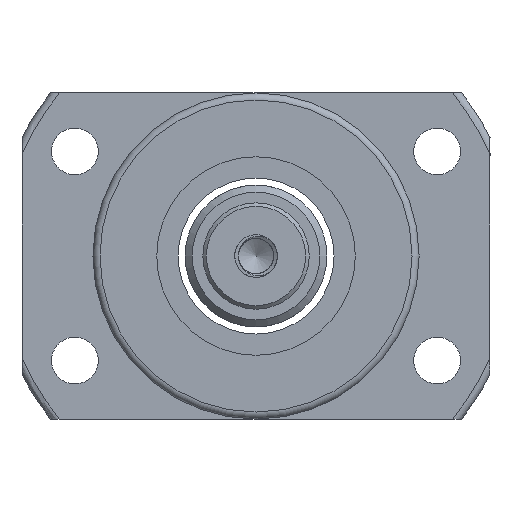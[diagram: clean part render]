
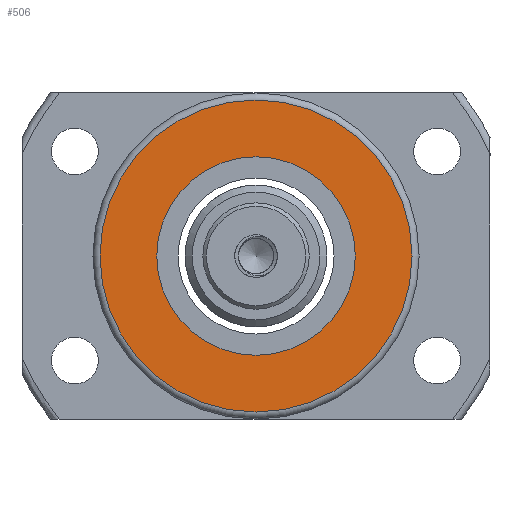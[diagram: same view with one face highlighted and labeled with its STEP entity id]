
A CAD part, left-side view. The second image highlights one B-rep face of the part: STEP entity #506.
In plain terms, the highlighted planar face has unit normal (-1, 0, 0).
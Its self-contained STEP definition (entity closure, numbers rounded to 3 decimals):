
#327 = DIRECTION ( 'NONE',  ( 0., 1., 0. ) ) ;
#506 = ADVANCED_FACE ( 'NONE', ( #7545, #3482 ), #7024, .F. ) ;
#1213 = VERTEX_POINT ( 'NONE', #3445 ) ;
#1287 = AXIS2_PLACEMENT_3D ( 'NONE', #4577, #6302, #327 ) ;
#1803 = CARTESIAN_POINT ( 'NONE',  ( -191.498, 14., 0. ) ) ;
#2172 = ORIENTED_EDGE ( 'NONE', *, *, #5327, .T. ) ;
#2686 = CIRCLE ( 'NONE', #3919, 22. ) ;
#2888 = EDGE_LOOP ( 'NONE', ( #4053 ) ) ;
#3445 = CARTESIAN_POINT ( 'NONE',  ( -191.498, 22., 0. ) ) ;
#3482 = FACE_OUTER_BOUND ( 'NONE', #2888, .T. ) ;
#3738 = EDGE_LOOP ( 'NONE', ( #2172 ) ) ;
#3897 = DIRECTION ( 'NONE',  ( 1., 0., 0. ) ) ;
#3919 = AXIS2_PLACEMENT_3D ( 'NONE', #6787, #3897, #4409 ) ;
#4053 = ORIENTED_EDGE ( 'NONE', *, *, #5975, .F. ) ;
#4409 = DIRECTION ( 'NONE',  ( 0., 1., 0. ) ) ;
#4567 = CARTESIAN_POINT ( 'NONE',  ( -191.498, 18., 0. ) ) ;
#4577 = CARTESIAN_POINT ( 'NONE',  ( -191.498, 0., 0. ) ) ;
#4641 = CIRCLE ( 'NONE', #1287, 14. ) ;
#4788 = AXIS2_PLACEMENT_3D ( 'NONE', #4567, #7652, #6948 ) ;
#5275 = VERTEX_POINT ( 'NONE', #1803 ) ;
#5327 = EDGE_CURVE ( 'NONE', #5275, #5275, #4641, .T. ) ;
#5975 = EDGE_CURVE ( 'NONE', #1213, #1213, #2686, .T. ) ;
#6302 = DIRECTION ( 'NONE',  ( 1., 0., 0. ) ) ;
#6787 = CARTESIAN_POINT ( 'NONE',  ( -191.498, 0., 0. ) ) ;
#6948 = DIRECTION ( 'NONE',  ( 0., -1., 0. ) ) ;
#7024 = PLANE ( 'NONE',  #4788 ) ;
#7545 = FACE_BOUND ( 'NONE', #3738, .T. ) ;
#7652 = DIRECTION ( 'NONE',  ( 1., 0., 0. ) ) ;
